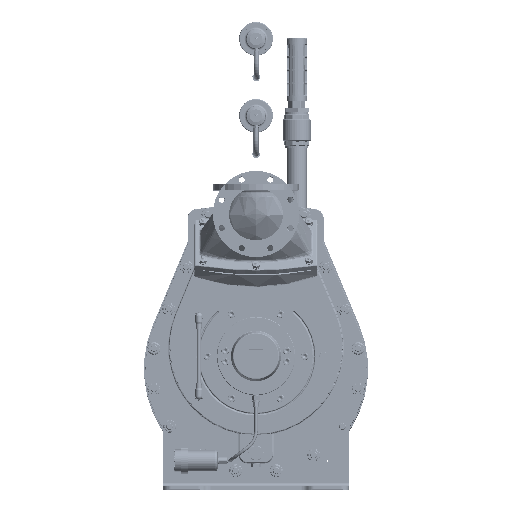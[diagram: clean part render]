
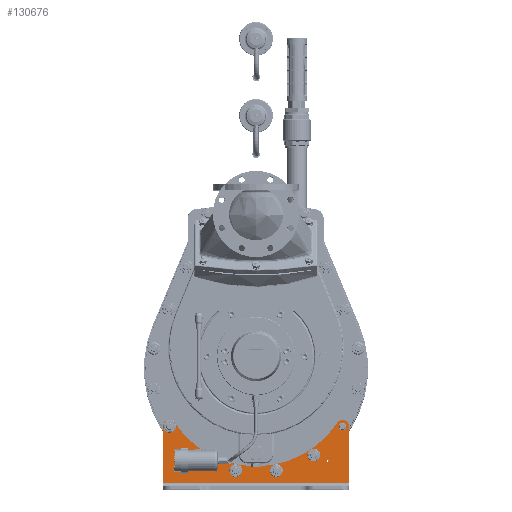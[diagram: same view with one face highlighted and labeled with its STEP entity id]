
A CAD part, top view. The second image highlights one B-rep face of the part: STEP entity #130676.
In plain terms, the highlighted planar face has unit normal (0, 0, 1) as drawn and (1, 0, 0) by its records, which use the part's own axes.
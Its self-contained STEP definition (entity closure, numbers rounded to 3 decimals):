
#16097=FACE_BOUND('',#27452,.T.);
#16098=FACE_BOUND('',#27453,.T.);
#16099=FACE_BOUND('',#27454,.T.);
#16100=FACE_BOUND('',#27455,.T.);
#16101=FACE_BOUND('',#27456,.T.);
#16102=FACE_BOUND('',#27457,.T.);
#16103=FACE_BOUND('',#27458,.T.);
#16104=FACE_BOUND('',#27459,.T.);
#17019=PLANE('',#140085);
#19691=FACE_OUTER_BOUND('',#27451,.T.);
#27451=EDGE_LOOP('',(#89152,#89153,#89154,#89155,#89156,#89157,#89158,#89159,
#89160,#89161));
#27452=EDGE_LOOP('',(#89162));
#27453=EDGE_LOOP('',(#89163));
#27454=EDGE_LOOP('',(#89164));
#27455=EDGE_LOOP('',(#89165));
#27456=EDGE_LOOP('',(#89166));
#27457=EDGE_LOOP('',(#89167));
#27458=EDGE_LOOP('',(#89168));
#27459=EDGE_LOOP('',(#89169));
#36132=LINE('',#181280,#43971);
#36134=LINE('',#181286,#43973);
#36135=LINE('',#181290,#43974);
#36136=LINE('',#181298,#43975);
#36137=LINE('',#181301,#43976);
#43971=VECTOR('',#151206,10.);
#43973=VECTOR('',#151212,10.);
#43974=VECTOR('',#151215,10.);
#43975=VECTOR('',#151222,10.);
#43976=VECTOR('',#151225,10.);
#51812=CIRCLE('',#140086,15.);
#51813=CIRCLE('',#140087,15.);
#51814=CIRCLE('',#140088,231.);
#51815=CIRCLE('',#140089,15.);
#51816=CIRCLE('',#140090,15.);
#51817=CIRCLE('',#140091,2.067);
#51818=CIRCLE('',#140092,2.067);
#51819=CIRCLE('',#140093,9.);
#51820=CIRCLE('',#140094,9.);
#51821=CIRCLE('',#140095,9.);
#51822=CIRCLE('',#140096,9.);
#51823=CIRCLE('',#140097,9.);
#51824=CIRCLE('',#140098,9.);
#56661=VERTEX_POINT('',#181277);
#56662=VERTEX_POINT('',#181279);
#56664=VERTEX_POINT('',#181285);
#56665=VERTEX_POINT('',#181287);
#56666=VERTEX_POINT('',#181289);
#56667=VERTEX_POINT('',#181291);
#56668=VERTEX_POINT('',#181293);
#56669=VERTEX_POINT('',#181295);
#56670=VERTEX_POINT('',#181297);
#56671=VERTEX_POINT('',#181299);
#56672=VERTEX_POINT('',#181302);
#56673=VERTEX_POINT('',#181304);
#56674=VERTEX_POINT('',#181306);
#56675=VERTEX_POINT('',#181308);
#56676=VERTEX_POINT('',#181310);
#56677=VERTEX_POINT('',#181312);
#56678=VERTEX_POINT('',#181314);
#56679=VERTEX_POINT('',#181316);
#69351=EDGE_CURVE('',#56661,#56662,#36132,.T.);
#69354=EDGE_CURVE('',#56664,#56661,#36134,.T.);
#69355=EDGE_CURVE('',#56665,#56664,#51812,.T.);
#69356=EDGE_CURVE('',#56666,#56665,#36135,.T.);
#69357=EDGE_CURVE('',#56667,#56666,#51813,.T.);
#69358=EDGE_CURVE('',#56667,#56668,#51814,.T.);
#69359=EDGE_CURVE('',#56669,#56668,#51815,.T.);
#69360=EDGE_CURVE('',#56670,#56669,#36136,.T.);
#69361=EDGE_CURVE('',#56671,#56670,#51816,.T.);
#69362=EDGE_CURVE('',#56662,#56671,#36137,.T.);
#69363=EDGE_CURVE('',#56672,#56672,#51817,.T.);
#69364=EDGE_CURVE('',#56673,#56673,#51818,.T.);
#69365=EDGE_CURVE('',#56674,#56674,#51819,.T.);
#69366=EDGE_CURVE('',#56675,#56675,#51820,.T.);
#69367=EDGE_CURVE('',#56676,#56676,#51821,.T.);
#69368=EDGE_CURVE('',#56677,#56677,#51822,.T.);
#69369=EDGE_CURVE('',#56678,#56678,#51823,.T.);
#69370=EDGE_CURVE('',#56679,#56679,#51824,.T.);
#89152=ORIENTED_EDGE('',*,*,#69351,.F.);
#89153=ORIENTED_EDGE('',*,*,#69354,.F.);
#89154=ORIENTED_EDGE('',*,*,#69355,.F.);
#89155=ORIENTED_EDGE('',*,*,#69356,.F.);
#89156=ORIENTED_EDGE('',*,*,#69357,.F.);
#89157=ORIENTED_EDGE('',*,*,#69358,.T.);
#89158=ORIENTED_EDGE('',*,*,#69359,.F.);
#89159=ORIENTED_EDGE('',*,*,#69360,.F.);
#89160=ORIENTED_EDGE('',*,*,#69361,.F.);
#89161=ORIENTED_EDGE('',*,*,#69362,.F.);
#89162=ORIENTED_EDGE('',*,*,#69363,.T.);
#89163=ORIENTED_EDGE('',*,*,#69364,.T.);
#89164=ORIENTED_EDGE('',*,*,#69365,.T.);
#89165=ORIENTED_EDGE('',*,*,#69366,.T.);
#89166=ORIENTED_EDGE('',*,*,#69367,.T.);
#89167=ORIENTED_EDGE('',*,*,#69368,.T.);
#89168=ORIENTED_EDGE('',*,*,#69369,.T.);
#89169=ORIENTED_EDGE('',*,*,#69370,.T.);
#130676=ADVANCED_FACE('',(#19691,#16097,#16098,#16099,#16100,#16101,#16102,
#16103,#16104),#17019,.T.);
#140085=AXIS2_PLACEMENT_3D('',#181284,#151210,#151211);
#140086=AXIS2_PLACEMENT_3D('',#181288,#151213,#151214);
#140087=AXIS2_PLACEMENT_3D('',#181292,#151216,#151217);
#140088=AXIS2_PLACEMENT_3D('',#181294,#151218,#151219);
#140089=AXIS2_PLACEMENT_3D('',#181296,#151220,#151221);
#140090=AXIS2_PLACEMENT_3D('',#181300,#151223,#151224);
#140091=AXIS2_PLACEMENT_3D('',#181303,#151226,#151227);
#140092=AXIS2_PLACEMENT_3D('',#181305,#151228,#151229);
#140093=AXIS2_PLACEMENT_3D('',#181307,#151230,#151231);
#140094=AXIS2_PLACEMENT_3D('',#181309,#151232,#151233);
#140095=AXIS2_PLACEMENT_3D('',#181311,#151234,#151235);
#140096=AXIS2_PLACEMENT_3D('',#181313,#151236,#151237);
#140097=AXIS2_PLACEMENT_3D('',#181315,#151238,#151239);
#140098=AXIS2_PLACEMENT_3D('',#181317,#151240,#151241);
#151206=DIRECTION('',(0.,0.,1.));
#151210=DIRECTION('center_axis',(1.,0.,0.));
#151211=DIRECTION('ref_axis',(0.,0.,-1.));
#151212=DIRECTION('',(0.,-1.,0.));
#151213=DIRECTION('center_axis',(-1.,0.,0.));
#151214=DIRECTION('ref_axis',(0.,0.707,-0.707));
#151215=DIRECTION('',(0.,0.,-1.));
#151216=DIRECTION('center_axis',(-1.,0.,0.));
#151217=DIRECTION('ref_axis',(0.,0.881,0.473));
#151218=DIRECTION('center_axis',(-1.,0.,0.));
#151219=DIRECTION('ref_axis',(0.,0.,-1.));
#151220=DIRECTION('center_axis',(-1.,0.,0.));
#151221=DIRECTION('ref_axis',(0.,0.881,-0.473));
#151222=DIRECTION('',(0.,0.,-1.));
#151223=DIRECTION('center_axis',(-1.,0.,0.));
#151224=DIRECTION('ref_axis',(0.,0.707,0.707));
#151225=DIRECTION('',(0.,1.,0.));
#151226=DIRECTION('center_axis',(-1.,0.,0.));
#151227=DIRECTION('ref_axis',(0.,0.,
-1.));
#151228=DIRECTION('center_axis',(-1.,0.,0.));
#151229=DIRECTION('ref_axis',(0.,0.,
-1.));
#151230=DIRECTION('center_axis',(-1.,0.,0.));
#151231=DIRECTION('ref_axis',(0.,0.,-1.));
#151232=DIRECTION('center_axis',(-1.,0.,0.));
#151233=DIRECTION('ref_axis',(0.,0.,-1.));
#151234=DIRECTION('center_axis',(-1.,0.,0.));
#151235=DIRECTION('ref_axis',(0.,0.,-1.));
#151236=DIRECTION('center_axis',(-1.,0.,0.));
#151237=DIRECTION('ref_axis',(0.,0.,-1.));
#151238=DIRECTION('center_axis',(-1.,0.,0.));
#151239=DIRECTION('ref_axis',(0.,0.,-1.));
#151240=DIRECTION('center_axis',(-1.,0.,0.));
#151241=DIRECTION('ref_axis',(0.,0.,-1.));
#181277=CARTESIAN_POINT('',(8.,16.,-220.));
#181279=CARTESIAN_POINT('',(8.,16.,220.));
#181280=CARTESIAN_POINT('',(8.,16.,0.));
#181284=CARTESIAN_POINT('Origin',(8.,58.,0.));
#181285=CARTESIAN_POINT('',(8.,150.,-220.));
#181286=CARTESIAN_POINT('',(8.,0.,-220.));
#181287=CARTESIAN_POINT('',(8.,165.,-205.));
#181288=CARTESIAN_POINT('Origin',(8.,150.,-205.));
#181289=CARTESIAN_POINT('',(8.,165.,-204.988));
#181290=CARTESIAN_POINT('',(8.,165.,-220.));
#181291=CARTESIAN_POINT('',(8.,158.293,-192.489));
#181292=CARTESIAN_POINT('Origin',(8.,150.,-204.988));
#181293=CARTESIAN_POINT('',(8.,158.293,192.489));
#181294=CARTESIAN_POINT('Origin',(8.,286.,0.));
#181295=CARTESIAN_POINT('',(8.,165.,204.988));
#181296=CARTESIAN_POINT('Origin',(8.,150.,204.988));
#181297=CARTESIAN_POINT('',(8.,165.,205.));
#181298=CARTESIAN_POINT('',(8.,165.,-220.));
#181299=CARTESIAN_POINT('',(8.,150.,220.));
#181300=CARTESIAN_POINT('Origin',(8.,150.,205.));
#181301=CARTESIAN_POINT('',(8.,165.,220.));
#181302=CARTESIAN_POINT('',(8.,68.,-167.933));
#181303=CARTESIAN_POINT('Origin',(8.,68.,-170.));
#181304=CARTESIAN_POINT('',(8.,68.,172.067));
#181305=CARTESIAN_POINT('Origin',(8.,68.,170.));
#181306=CARTESIAN_POINT('',(8.,149.33,213.542));
#181307=CARTESIAN_POINT('Origin',(8.,149.33,204.542));
#181308=CARTESIAN_POINT('',(8.,44.727,56.992));
#181309=CARTESIAN_POINT('Origin',(8.,44.727,47.992));
#181310=CARTESIAN_POINT('',(8.,81.458,-127.67));
#181311=CARTESIAN_POINT('Origin',(8.,81.458,-136.67));
#181312=CARTESIAN_POINT('',(8.,149.33,-195.542));
#181313=CARTESIAN_POINT('Origin',(8.,149.33,-204.542));
#181314=CARTESIAN_POINT('',(8.,44.727,-38.992));
#181315=CARTESIAN_POINT('Origin',(8.,44.727,-47.992));
#181316=CARTESIAN_POINT('',(8.,81.458,145.67));
#181317=CARTESIAN_POINT('Origin',(8.,81.458,136.67));
